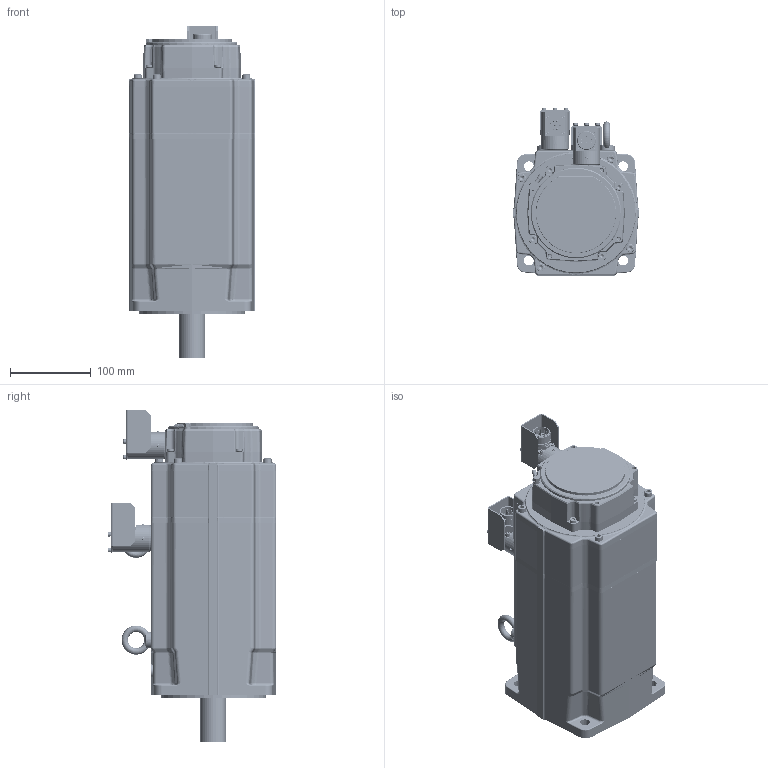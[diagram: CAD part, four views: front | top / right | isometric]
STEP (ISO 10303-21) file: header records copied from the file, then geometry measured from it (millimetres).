
FILE_DESCRIPTION((''),'2;1');
FILE_NAME('EY840EAR7310_ASM','2016-11-14T',('pf73167'),(''),'PRO/ENGINEER BY PARAMETRIC TECHNOLOGY CORPORATION, 2009400','PRO/ENGINEER BY PARAMETRIC TECHNOLOGY CORPORATION, 2009400','');
FILE_SCHEMA(('CONFIG_CONTROL_DESIGN'));
Length unit declared in the file: millimetre
Products named in the file (65): 344458P0008; 5340P0036; 5116P1319; 1150P0512; 301026P0003; 344463P0005; 344232P0003; 344212P0003; 344232P0003_ASM; 344461R0005_ASM; 5116P1327; 1711P0002; 1640P0001; 344440P0002; 344231P0003; BOB_344465R4000; 344465R4000_ASM; 344466R4000_ASM; SURMOULAGE_344467R4001; 344467R4001_ASM; 5320P0029; 1613P0081; 1613P0082; 1314P0408; 283154_08_P1F101_AF0; 283154_08_P1F501_AF0; 283154P0040_ASM; 1150P0608; 300025P0004; 344455P0001; 344459P0026; 5340P0071; 1150P0625; 282280P0012; 1613P0034; 1613P0035; 220005P1002; 344509P0001; 1643P0104; 1143P0405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
Assembly tree (137 placements, depth 5):
  EY840EAR7310_ASM
    344458P0008
    5340P0036  x3
    5116P1319
    1150P0512  x3
    301026P0003
    344461R0005_ASM
      344463P0005
      344232P0003_ASM
        344232P0003
        344212P0003  x2
    5116P1327
    1711P0002
    1640P0001  x3
    344467R4001_ASM
      344440P0002
      344466R4000_ASM
        344465R4000_ASM
          344231P0003
          BOB_344465R4000
      SURMOULAGE_344467R4001
    5320P0029
    1613P0081  x2
    1613P0082  x2
    1314P0408
    283154P0040_ASM
      283154_08_P1F101_AF0
      283154_08_P1F501_AF0
    1150P0608  x4
    300025P0004
    344455P0001
    344459P0026
    5340P0071
    1150P0625  x4
    282280P0012
    1613P0034  x2
    1613P0035  x2
    220005P1002
    344509P0001
    1643P0104  x3
    1143P0405  x3
    344191P0021
    345359R1010_800_ASM
      345359P0002
      5340P0124
      5340P0125
      1150P0204  x8
      345359P0001
      1170P0042  x4
      220132P1010_ASM
        220132P1010_0001
        220132P1010_0002
        220132P0111  x4
        220132P0120  x3
      345359P0003
      1150P0305  x3
    345359R1020_800_ASM
      345359P0002
      5340P0124
      5340P0125
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Bounding box: 157 x 207.7 x 410.9 mm (x, y, z)
Volume: 5293452.3 mm3; surface area: 1195814.6 mm2
Topology: 135 solids, 164 shells, 6677 faces, 15640 edges, 9549 vertices
Faces by surface type: plane 2312, cylinder 2151, cone 1009, bspline 735, torus 404, sphere 66
Entity records: 170250 total; most frequent: CARTESIAN_POINT 57499, ORIENTED_EDGE 23446, DIRECTION 22792, EDGE_CURVE 11723, AXIS2_PLACEMENT_3D 8641, VERTEX_POINT 7354, EDGE_LOOP 5521, VECTOR 5510
